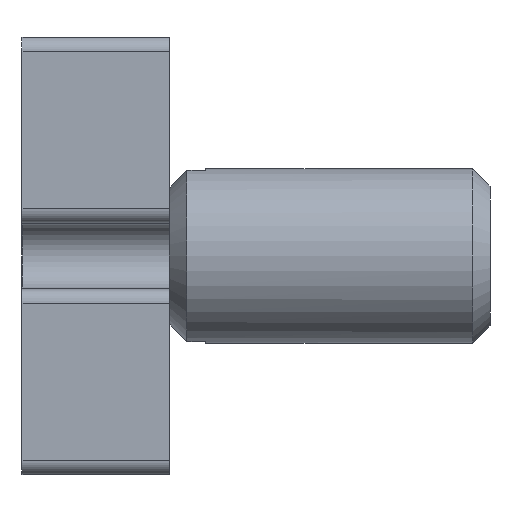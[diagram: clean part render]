
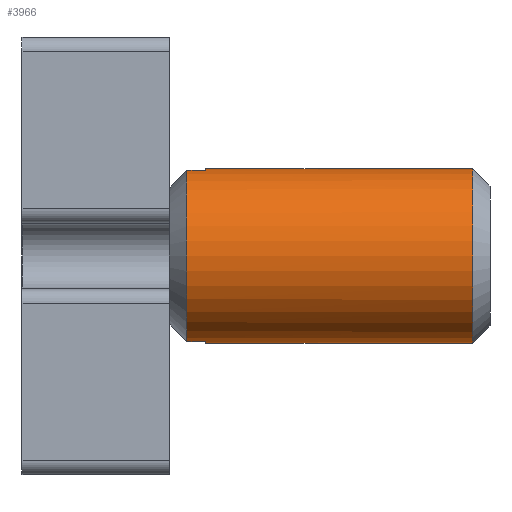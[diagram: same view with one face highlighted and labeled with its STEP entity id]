
A CAD part, left-side view. The second image highlights one B-rep face of the part: STEP entity #3966.
In plain terms, the highlighted cylindrical face has radius 6 mm (diameter 12 mm), a partial arc.
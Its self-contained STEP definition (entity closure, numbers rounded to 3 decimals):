
#10 = CARTESIAN_POINT ( 'NONE',  ( -1.15, 22., -5.889 ) ) ;
#84 = VECTOR ( 'NONE', #3877, 1000. ) ;
#224 = ORIENTED_EDGE ( 'NONE', *, *, #3993, .F. ) ;
#267 = CARTESIAN_POINT ( 'NONE',  ( -1.15, 1.2, -5.889 ) ) ;
#522 = ORIENTED_EDGE ( 'NONE', *, *, #1871, .T. ) ;
#533 = CARTESIAN_POINT ( 'NONE',  ( -1.15, 22., 5.889 ) ) ;
#589 = DIRECTION ( 'NONE',  ( 0., -1., 0. ) ) ;
#607 = DIRECTION ( 'NONE',  ( 0., -1., 0. ) ) ;
#662 = DIRECTION ( 'NONE',  ( 0., 1., 0. ) ) ;
#750 = DIRECTION ( 'NONE',  ( 0., -1., 0. ) ) ;
#756 = CARTESIAN_POINT ( 'NONE',  ( 0., 20.8, 0. ) ) ;
#951 = CARTESIAN_POINT ( 'NONE',  ( 0., 22., -6. ) ) ;
#965 = AXIS2_PLACEMENT_3D ( 'NONE', #3275, #750, #3898 ) ;
#1027 = DIRECTION ( 'NONE',  ( 0., -1., 0. ) ) ;
#1033 = AXIS2_PLACEMENT_3D ( 'NONE', #3817, #589, #1573 ) ;
#1073 = CARTESIAN_POINT ( 'NONE',  ( 0., 2.5, -6. ) ) ;
#1152 = CIRCLE ( 'NONE', #3251, 6. ) ;
#1217 = DIRECTION ( 'NONE',  ( 0., -1., 0. ) ) ;
#1243 = EDGE_CURVE ( 'NONE', #3138, #2088, #3069, .T. ) ;
#1376 = LINE ( 'NONE', #10, #84 ) ;
#1399 = DIRECTION ( 'NONE',  ( 0., 0., -1. ) ) ;
#1450 = VECTOR ( 'NONE', #607, 1000. ) ;
#1473 = ORIENTED_EDGE ( 'NONE', *, *, #2029, .F. ) ;
#1507 = CIRCLE ( 'NONE', #1033, 6. ) ;
#1573 = DIRECTION ( 'NONE',  ( 0., 0., -1. ) ) ;
#1633 = CARTESIAN_POINT ( 'NONE',  ( 0., 22., 0. ) ) ;
#1649 = VECTOR ( 'NONE', #2671, 1000. ) ;
#1659 = DIRECTION ( 'NONE',  ( 0., 0., 1. ) ) ;
#1735 = LINE ( 'NONE', #951, #1450 ) ;
#1770 = DIRECTION ( 'NONE',  ( 0., 1., 0. ) ) ;
#1813 = LINE ( 'NONE', #2257, #1649 ) ;
#1871 = EDGE_CURVE ( 'NONE', #3585, #2013, #1152, .T. ) ;
#1876 = VERTEX_POINT ( 'NONE', #2530 ) ;
#2013 = VERTEX_POINT ( 'NONE', #3013 ) ;
#2029 = EDGE_CURVE ( 'NONE', #3585, #3651, #1813, .T. ) ;
#2088 = VERTEX_POINT ( 'NONE', #2555 ) ;
#2257 = CARTESIAN_POINT ( 'NONE',  ( 0., 22., 6. ) ) ;
#2318 = EDGE_CURVE ( 'NONE', #3651, #3076, #1507, .T. ) ;
#2340 = EDGE_LOOP ( 'NONE', ( #1473, #522, #3569, #224, #3892, #3965, #2692, #2643 ) ) ;
#2496 = AXIS2_PLACEMENT_3D ( 'NONE', #1633, #1027, #1399 ) ;
#2530 = CARTESIAN_POINT ( 'NONE',  ( -1.15, 2.5, -5.889 ) ) ;
#2547 = VERTEX_POINT ( 'NONE', #1073 ) ;
#2555 = CARTESIAN_POINT ( 'NONE',  ( -1.15, 1.2, 5.889 ) ) ;
#2559 = CARTESIAN_POINT ( 'NONE',  ( 0., 2.5, 6. ) ) ;
#2636 = CARTESIAN_POINT ( 'NONE',  ( 0., 20.8, 6. ) ) ;
#2643 = ORIENTED_EDGE ( 'NONE', *, *, #2318, .F. ) ;
#2645 = LINE ( 'NONE', #533, #4140 ) ;
#2671 = DIRECTION ( 'NONE',  ( 0., -1., 0. ) ) ;
#2692 = ORIENTED_EDGE ( 'NONE', *, *, #3721, .T. ) ;
#3013 = CARTESIAN_POINT ( 'NONE',  ( 0., 20.8, -6. ) ) ;
#3068 = CARTESIAN_POINT ( 'NONE',  ( 0., 1.2, 0. ) ) ;
#3069 = CIRCLE ( 'NONE', #3769, 6. ) ;
#3076 = VERTEX_POINT ( 'NONE', #4232 ) ;
#3138 = VERTEX_POINT ( 'NONE', #267 ) ;
#3251 = AXIS2_PLACEMENT_3D ( 'NONE', #756, #1217, #1659 ) ;
#3275 = CARTESIAN_POINT ( 'NONE',  ( 0., 2.5, 0. ) ) ;
#3383 = EDGE_CURVE ( 'NONE', #2013, #2547, #1735, .T. ) ;
#3511 = DIRECTION ( 'NONE',  ( 0., 0., 1. ) ) ;
#3562 = CIRCLE ( 'NONE', #965, 6. ) ;
#3569 = ORIENTED_EDGE ( 'NONE', *, *, #3383, .T. ) ;
#3585 = VERTEX_POINT ( 'NONE', #2636 ) ;
#3651 = VERTEX_POINT ( 'NONE', #2559 ) ;
#3721 = EDGE_CURVE ( 'NONE', #2088, #3076, #2645, .T. ) ;
#3769 = AXIS2_PLACEMENT_3D ( 'NONE', #3068, #1770, #3511 ) ;
#3798 = EDGE_CURVE ( 'NONE', #1876, #3138, #1376, .T. ) ;
#3817 = CARTESIAN_POINT ( 'NONE',  ( 0., 2.5, 0. ) ) ;
#3877 = DIRECTION ( 'NONE',  ( 0., -1., 0. ) ) ;
#3892 = ORIENTED_EDGE ( 'NONE', *, *, #3798, .T. ) ;
#3898 = DIRECTION ( 'NONE',  ( 0., 0., -1. ) ) ;
#3965 = ORIENTED_EDGE ( 'NONE', *, *, #1243, .T. ) ;
#3966 = ADVANCED_FACE ( 'NONE', ( #4053 ), #4144, .T. ) ;
#3993 = EDGE_CURVE ( 'NONE', #1876, #2547, #3562, .T. ) ;
#4053 = FACE_OUTER_BOUND ( 'NONE', #2340, .T. ) ;
#4140 = VECTOR ( 'NONE', #662, 1000. ) ;
#4144 = CYLINDRICAL_SURFACE ( 'NONE', #2496, 6. ) ;
#4232 = CARTESIAN_POINT ( 'NONE',  ( -1.15, 2.5, 5.889 ) ) ;
